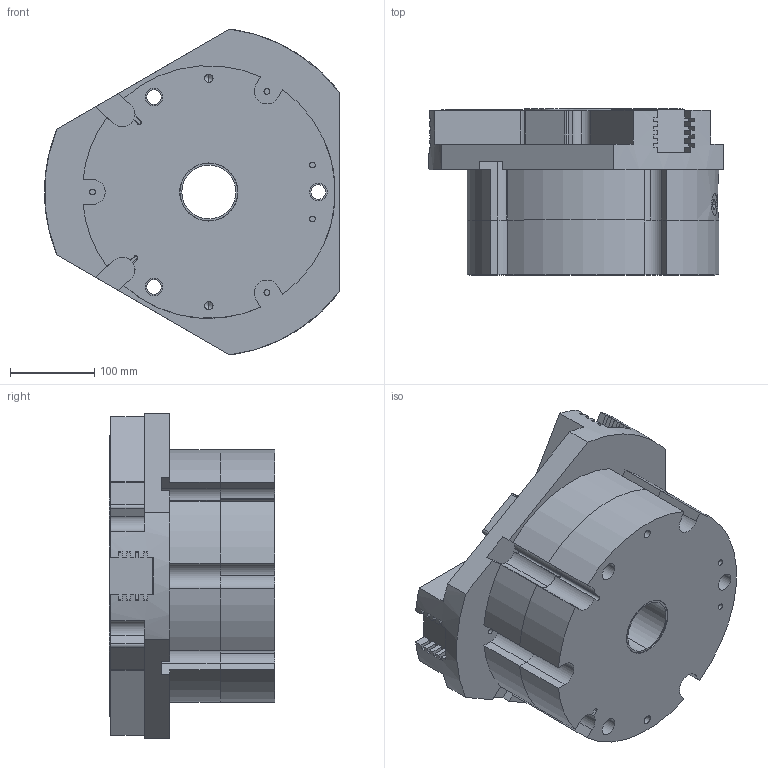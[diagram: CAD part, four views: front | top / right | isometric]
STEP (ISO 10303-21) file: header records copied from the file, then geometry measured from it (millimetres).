
FILE_DESCRIPTION (( 'STEP AP214' ), '1' );
FILE_NAME ('THB-300A-2-AS.STEP', '2021-01-18T02:57:02', ( '' ), ( '' ), 'SwSTEP 2.0', 'SolidWorks 2016', '' );
FILE_SCHEMA (( 'AUTOMOTIVE_DESIGN' ));
Length unit declared in the file: millimetre
Products named in the file (6): THB-300A-2-AS-05; THB-300A-2-AS-02; THB-300A-2-AS-04; THB-300A-2-AS-03; THB-300A-2-AS; THB-300A-2-AS-01
Assembly tree (7 placements, depth 2):
  THB-300A-2-AS
    THB-300A-2-AS-01
    THB-300A-2-AS-02  x3
    THB-300A-2-AS-03
    THB-300A-2-AS-05
    THB-300A-2-AS-04
Bounding box: 349.86 x 197 x 386.79 mm (x, y, z)
Volume: 12713405.2 mm3; surface area: 993816.7 mm2
Topology: 7 solids, 7 shells, 581 faces, 1611 edges, 1042 vertices
Faces by surface type: plane 325, cylinder 200, cone 56
Entity records: 15699 total; most frequent: CARTESIAN_POINT 2764, DIRECTION 2709, ORIENTED_EDGE 2542, EDGE_CURVE 1271, AXIS2_PLACEMENT_3D 971, VERTEX_POINT 838, LINE 767, VECTOR 767
